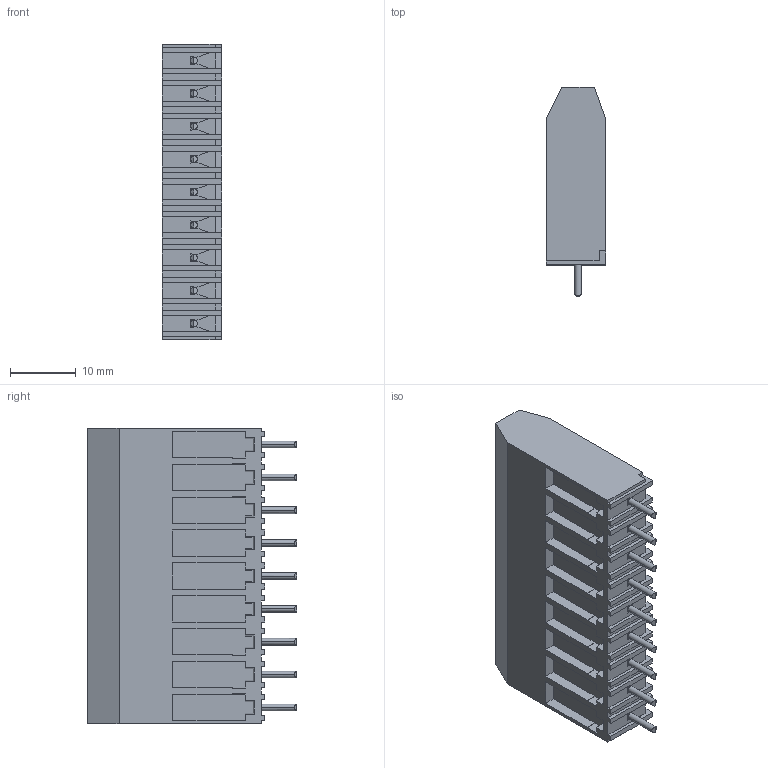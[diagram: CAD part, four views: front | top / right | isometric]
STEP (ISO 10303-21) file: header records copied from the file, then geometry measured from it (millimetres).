
FILE_DESCRIPTION (( 'STEP AP203' ), '1' );
FILE_NAME ('978-HEN-09.STEP', '2017-02-06T18:09:53', ( '' ), ( '' ), 'SwSTEP 2.0', 'SolidWorks 2016', '' );
FILE_SCHEMA (( 'CONFIG_CONTROL_DESIGN' ));
Length unit declared in the file: millimetre
Products named in the file (1): 978-HEN-09
Bounding box: 9 x 31.8 x 45 mm (x, y, z)
Volume: 8526.9 mm3; surface area: 6448.6 mm2
Topology: 1 solids, 1 shells, 1252 faces, 3534 edges, 2311 vertices
Faces by surface type: plane 1063, cylinder 135, cone 54
Entity records: 40379 total; most frequent: CARTESIAN_POINT 8124, ORIENTED_EDGE 7068, DIRECTION 6148, EDGE_CURVE 3534, VECTOR 2886, LINE 2886, VERTEX_POINT 2311, AXIS2_PLACEMENT_3D 1631
